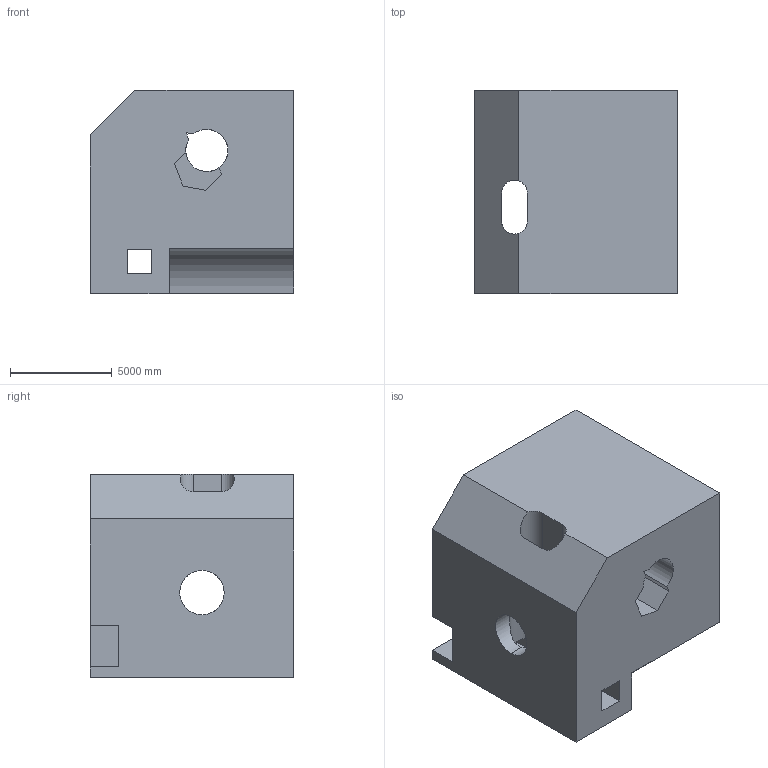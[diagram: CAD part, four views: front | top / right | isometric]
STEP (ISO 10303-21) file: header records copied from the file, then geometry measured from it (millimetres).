
FILE_DESCRIPTION (( 'STEP AP203' ), '1' );
FILE_NAME ('961.STEP', '2022-07-29T14:43:08', ( 'user' ), ( '' ), 'SwSTEP 2.0', 'SolidWorks 2021', '' );
FILE_SCHEMA (( 'CONFIG_CONTROL_DESIGN' ));
Length unit declared in the file: centimetre
Products named in the file (1): 961
Bounding box: 10000 x 10000 x 10000 mm (x, y, z)
Volume: 810543501022.7 mm3; surface area: 800022283.5 mm2
Topology: 1 solids, 1 shells, 47 faces, 150 edges, 100 vertices
Faces by surface type: plane 31, cylinder 16
Entity records: 2252 total; most frequent: CARTESIAN_POINT 821, ORIENTED_EDGE 300, DIRECTION 266, EDGE_CURVE 150, LINE 102, VECTOR 102, VERTEX_POINT 100, AXIS2_PLACEMENT_3D 82
